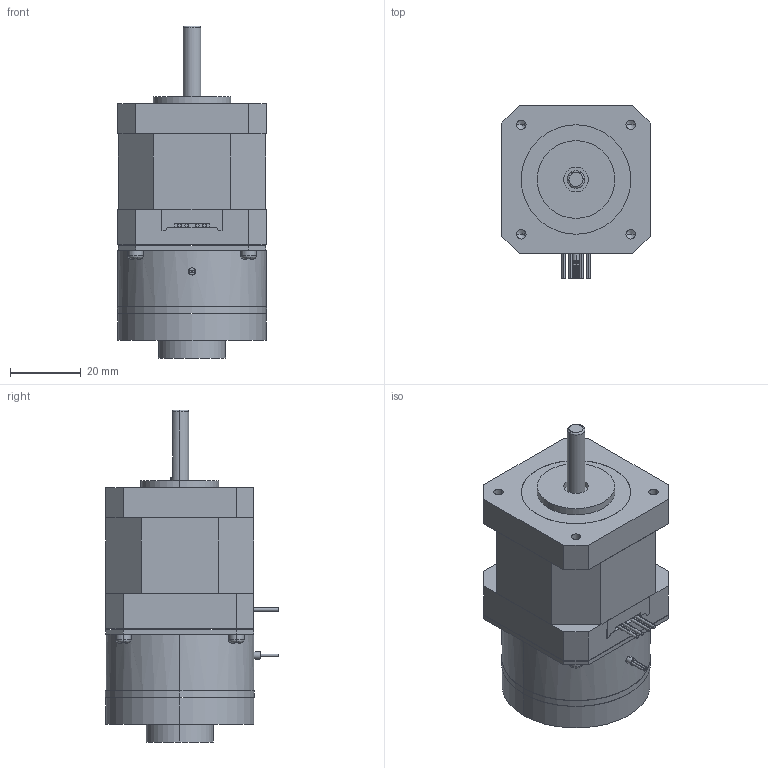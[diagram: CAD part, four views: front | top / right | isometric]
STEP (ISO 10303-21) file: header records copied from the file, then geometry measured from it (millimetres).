
FILE_DESCRIPTION (( 'STEP AP203' ), '1' );
FILE_NAME ('UB42D24-D16-640.STEP', '2019-11-16T02:10:40', ( 'China' ), ( 'Home' ), 'SwSTEP 2.0', 'SolidWorks 2016', '' );
FILE_SCHEMA (( 'CONFIG_CONTROL_DESIGN' ));
Length unit declared in the file: millimetre
Products named in the file (1): UB42D24-D16-640
Bounding box: 42.2 x 49.1 x 94 mm (x, y, z)
Volume: 104710.1 mm3; surface area: 21099.6 mm2
Topology: 6 solids, 10 shells, 287 faces, 730 edges, 473 vertices
Faces by surface type: plane 206, cylinder 62, bspline 11, cone 8
Entity records: 8892 total; most frequent: CARTESIAN_POINT 2011, ORIENTED_EDGE 1444, DIRECTION 1339, EDGE_CURVE 722, VECTOR 493, LINE 493, VERTEX_POINT 473, AXIS2_PLACEMENT_3D 423
